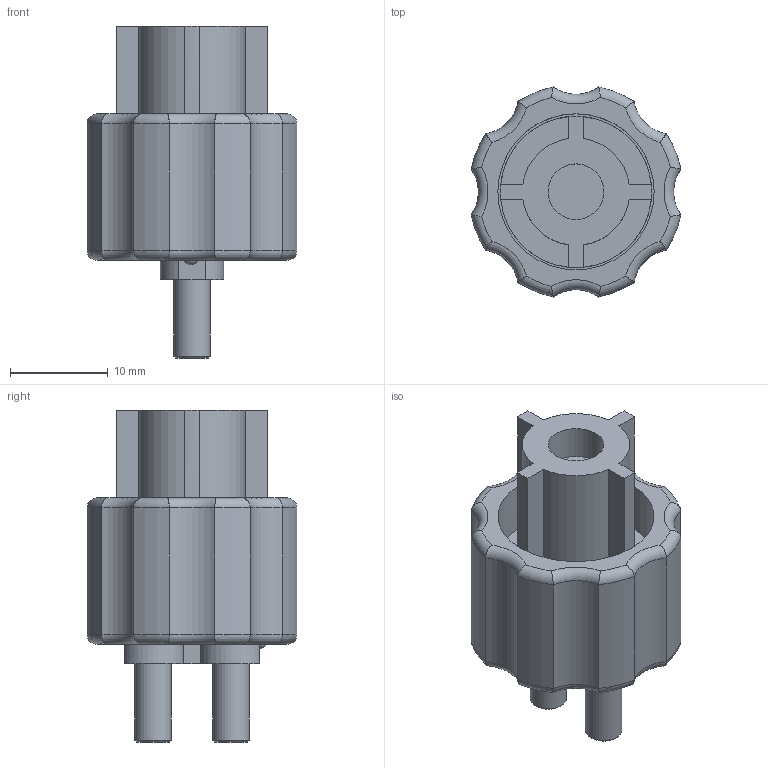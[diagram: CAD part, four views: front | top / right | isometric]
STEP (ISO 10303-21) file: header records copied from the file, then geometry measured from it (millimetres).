
FILE_DESCRIPTION(/* description */ ('LWL-Anschluss-Mutter'),/* implementation_level */ '2;1');
FILE_NAME(/* name */ 'T:\E-Mail-Zeichnungen\STEP\HOMEPAGE\LWL-Anschluss-2fach mit Mutter.stp',/* time_stamp */ '2015-04-21T12:01:22+02:00',/* author */ ('simone.schrank'),/* organization */ (''),/* preprocessor_version */ 'ST-DEVELOPER v15.6',/* originating_system */ 'Autodesk Inventor 2015',/* authorisation */ '');
FILE_SCHEMA (('AUTOMOTIVE_DESIGN { 1 0 10303 214 3 1 1 }'));
Length unit declared in the file: millimetre
Products named in the file (3): LWL-Anschluss-Mutter; LWL-Anschluss; LWL-Anschluss-2fach mit Mutter
Assembly tree (2 placements, depth 2):
  LWL-Anschluss-2fach mit Mutter
    LWL-Anschluss-Mutter
    LWL-Anschluss
Bounding box: 21.5 x 21.5 x 34 mm (x, y, z)
Volume: 5094.7 mm3; surface area: 4105.1 mm2
Topology: 2 solids, 2 shells, 111 faces, 267 edges, 166 vertices
Faces by surface type: plane 43, cylinder 33, torus 32, cone 2, sphere 1
Full cylindrical faces by diameter (mm): 2 x2, 3.75 x2, 5.7 x1, 15.5 x1, 16 x1, 16.5 x1, 16.917 x1
Entity records: 3588 total; most frequent: CARTESIAN_POINT 946, DIRECTION 566, ORIENTED_EDGE 502, EDGE_CURVE 251, AXIS2_PLACEMENT_3D 231, VERTEX_POINT 163, EDGE_LOOP 132, CIRCLE 115
